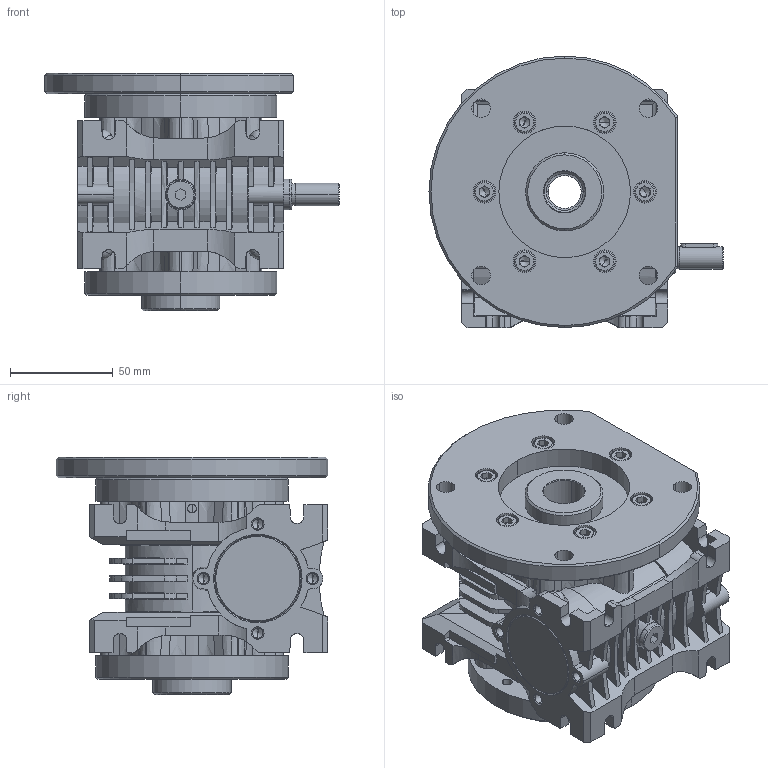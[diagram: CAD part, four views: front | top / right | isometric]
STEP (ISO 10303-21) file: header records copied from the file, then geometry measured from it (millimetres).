
FILE_DESCRIPTION (( 'STEP AP203' ), '1' );
FILE_NAME ('MRP-32_WBS_SP_KM-2.STEP', '2023-10-17T11:25:06', ( '' ), ( '' ), 'SwSTEP 2.0', 'SolidWorks 2022', '' );
FILE_SCHEMA (( 'CONFIG_CONTROL_DESIGN' ));
Products named in the file (1): MRP-32_WBS_SP_KM-2
Bounding box: 143 x 132 x 115.5 mm (x, y, z)
Volume: 737024 mm3; surface area: 169359.3 mm2
Topology: 1 solids, 52 shells, 2588 faces, 6250 edges, 3776 vertices
Faces by surface type: plane 815, cylinder 718, cone 611, torus 315, bspline 102, sphere 27
Entity records: 77520 total; most frequent: CARTESIAN_POINT 17906, DIRECTION 12888, ORIENTED_EDGE 12348, EDGE_CURVE 6174, AXIS2_PLACEMENT_3D 5034, VERTEX_POINT 3776, LINE 2820, VECTOR 2820
